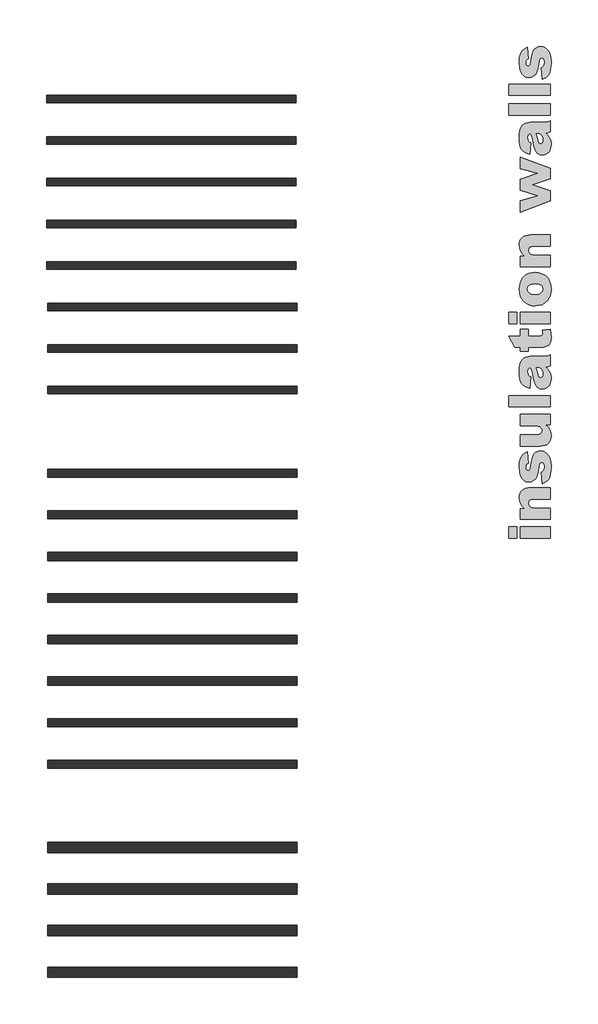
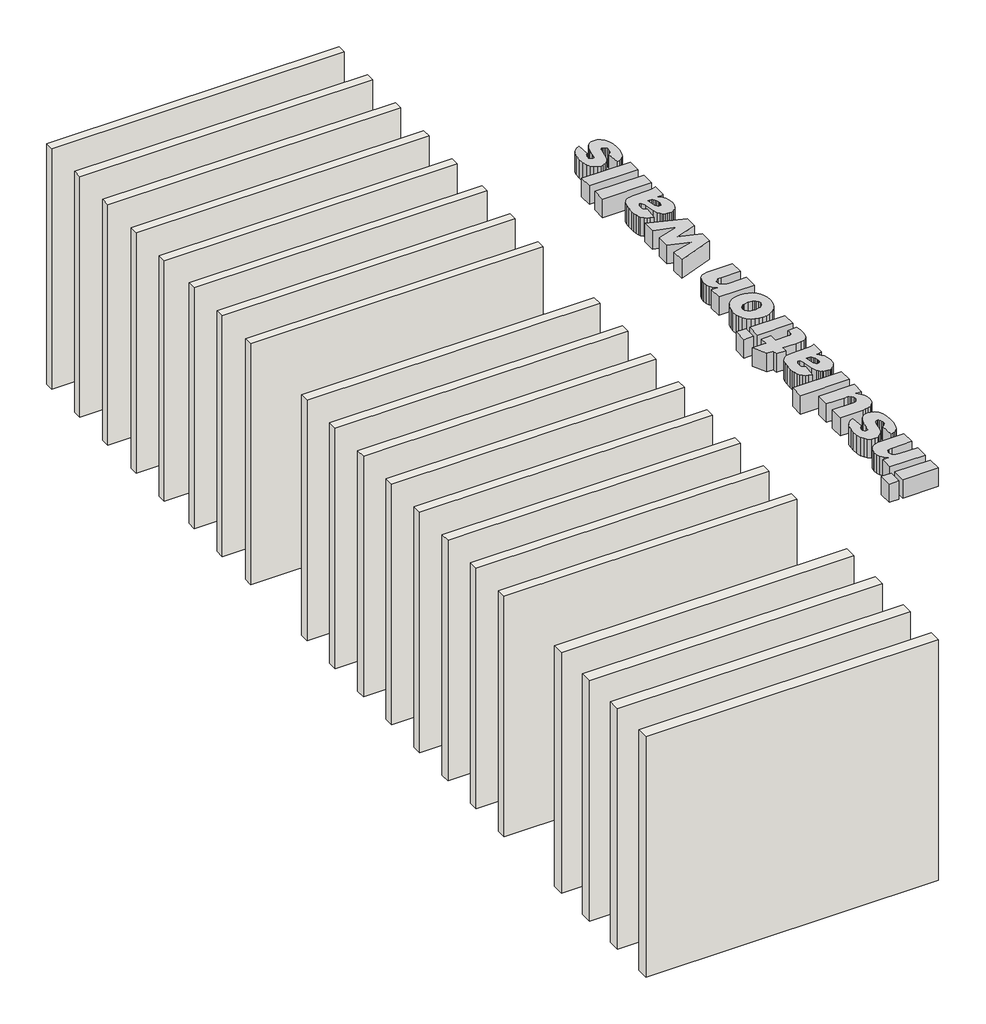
# One storey: 20 walls, 1 proxy.
"""IFC4 building model written with IfcOpenShell, lengths in millimetres."""

from ifc_helpers import new_model, si_unit, origin, origin_with_axes, place, context, project, spatial, polyline, outline, extrude, element, save

model = new_model("IFC4")

# Units and contexts
model_context = context("Model", 3, world=origin())
ifc_project = project(units=[si_unit("LENGTHUNIT", "METRE", prefix="MILLI")], contexts=[model_context])

# Site, building, storey
site = spatial("IfcSite", under=ifc_project)
building = spatial("IfcBuilding", under=site)
storey = spatial("IfcBuildingStorey", under=building, Name="faay_bottom_view_color", Elevation=0.0)

# Proxy
placement = place(None, origin())
element("IfcBuildingElementProxy", 1, Name="500 Arial Black", ObjectType="500 Arial Black", at=placement, inside=storey, context=model_context, shape_type="SweptSolid", body=[
    extrude(outline(polyline([(23393.2683136, 13413.0302828), (23393.2683136, 13550.2851847), (23491.3075293, 13550.2851847), (23491.3075293, 13413.0302828), (23393.2683136, 13413.0302828)])), origin_with_axes(), (0.0, 0.0, 1.0), 200.0),
    extrude(outline(polyline([(23530.5232155, 13413.0302828), (23530.5232155, 13550.2851847), (23893.2683136, 13550.2851847), (23893.2683136, 13413.0302828), (23530.5232155, 13413.0302828)])), origin_with_axes(), (0.0, 0.0, 1.0), 200.0),
    extrude(outline(polyline([(23530.5232155, 13638.5204788), (23530.5232155, 13766.2778318), (23587.9680685, 13766.2778318), (23556.9669962, 13795.5555585), (23536.2677008, 13825.1779543), (23524.6063957, 13858.2087448), (23520.719294, 13897.7116553), (23522.873476, 13925.0218958), (23529.3360219, 13949.2013918), (23540.1069318, 13970.2501434), (23555.1862057, 13988.1681504), (23574.7653265, 14002.4767059), (23599.0357768, 14012.6971026), (23627.9975568, 14018.8293407), (23661.6506665, 14020.87342), (23893.2683136, 14020.87342), (23893.2683136, 13883.6185181), (23691.6751763, 13883.6185181), (23662.2442633, 13880.3633097), (23642.8853479, 13870.5976847), (23632.1431604, 13854.9726847), (23628.5624312, 13834.1393514), (23633.3877989, 13810.5678134), (23647.8639018, 13791.9365328), (23659.4390397, 13784.8660288), (23674.8629827, 13779.8156688), (23717.2572842, 13775.7753808), (23893.2683136, 13775.7753808), (23893.2683136, 13638.5204788), (23530.5232155, 13638.5204788)])), origin_with_axes(), (0.0, 0.0, 1.0), 200.0),
    extrude(outline(polyline([(23795.2290979, 14069.8930279), (23785.4251763, 14207.1479298), (23803.5394533, 14217.2199274), (23815.6028724, 14230.5854298), (23822.3813651, 14248.1252583), (23824.6408626, 14270.7202337), (23821.6920268, 14294.9619617), (23812.8455195, 14313.1528318), (23803.0415979, 14321.8844494), (23791.0930685, 14324.7949886), (23778.0339386, 14322.1525254), (23768.2683136, 14314.2251357), (23761.9493798, 14296.4172313), (23754.3283626, 14258.005773), (23742.3032401, 14196.2334078), (23731.0440489, 14156.7496455), (23716.4147597, 14130.6313857), (23694.279343, 14108.9555279), (23666.5909239, 14094.3645352), (23635.3026273, 14089.500871), (23601.5250538, 14094.7857975), (23572.8026273, 14110.6405769), (23549.9204276, 14135.7439776), (23533.6635342, 14168.7747681), (23523.955354, 14212.1073355), (23520.719294, 14268.1160671), (23523.2277192, 14325.2353992), (23530.752995, 14365.159572), (23543.5440489, 14393.9011467), (23561.8498087, 14417.4726847), (23586.6085403, 14436.6592656), (23618.7585097, 14452.245969), (23628.5624312, 14314.9910671), (23616.3458258, 14309.0550989), (23607.8822842, 14300.1319984), (23601.3335709, 14284.5069984), (23599.1506665, 14265.818273), (23601.1995329, 14248.2018514), (23607.3461322, 14236.1001357), (23616.4415673, 14229.0918636), (23627.336941, 14226.755773), (23638.7876151, 14228.6706014), (23647.0979704, 14234.4150867), (23653.4934974, 14251.6868391), (23659.1996861, 14288.183469), (23668.4291592, 14348.9601234), (23680.7989508, 14391.8905769), (23697.7260342, 14421.9150867), (23720.6273822, 14443.9739102), (23747.7796494, 14457.5308955), (23777.4594901, 14462.0498906), (23808.4031175, 14457.224523), (23838.4276273, 14442.74842), (23864.9862977, 14417.893947), (23885.5324067, 14381.933469), (23898.687278, 14332.9138612), (23903.0722352, 14268.8819984), (23901.3201671, 14221.9687019), (23896.0639631, 14182.3317533), (23887.303623, 14149.9711529), (23875.0391469, 14124.8869004), (23859.5386108, 14105.3652246), (23841.0700905, 14089.6923538), (23819.6335863, 14077.8682883), (23795.2290979, 14069.8930279)])), origin_with_axes(), (0.0, 0.0, 1.0), 200.0),
    extrude(outline(polyline([(23893.2683136, 14903.2263612), (23893.2683136, 14775.0094494), (23835.9766469, 14775.0094494), (23867.0543124, 14745.7891676), (23887.6770146, 14716.3391063), (23899.22343, 14683.4040573), (23903.0722352, 14643.7288122), (23900.9180532, 14616.4903777), (23894.4555072, 14592.3731136), (23883.6845973, 14571.3770199), (23868.6053234, 14553.5020965), (23849.045351, 14539.2270505), (23824.8323454, 14529.0305891), (23795.9663068, 14522.9127123), (23762.4472352, 14520.87342), (23530.5232155, 14520.87342), (23530.5232155, 14658.128322), (23731.8099803, 14658.128322), (23761.2791898, 14661.3835303), (23780.752995, 14671.1491553), (23791.6100722, 14686.7741553), (23795.2290979, 14707.6074886), (23790.4037303, 14730.9875438), (23775.9276273, 14749.657121), (23764.3620636, 14756.794644), (23748.966843, 14761.8928747), (23706.6874312, 14765.9714592), (23530.5232155, 14765.9714592), (23530.5232155, 14903.2263612), (23893.2683136, 14903.2263612)])), origin_with_axes(), (0.0, 0.0, 1.0), 200.0),
    extrude(outline(polyline([(23393.2683136, 14991.4616553), (23393.2683136, 15128.7165573), (23893.2683136, 15128.7165573), (23893.2683136, 14991.4616553), (23393.2683136, 14991.4616553)])), origin_with_axes(), (0.0, 0.0, 1.0), 200.0),
    extrude(outline(polyline([(23657.9741959, 15354.2067533), (23648.1702744, 15216.9518514), (23612.6119104, 15225.951545), (23585.5936812, 15238.2447435), (23564.3199374, 15255.24842), (23545.9950293, 15278.3795475), (23535.3677315, 15300.6107056), (23527.3828969, 15329.9267288), (23522.3851947, 15364.1447129), (23520.719294, 15401.0817533), (23522.4809361, 15456.4585916), (23527.7658626, 15499.7337141), (23538.6037915, 15533.8559568), (23557.024441, 15561.7741553), (23575.7131665, 15577.380007), (23600.8357155, 15589.2710916), (23628.5241347, 15596.7963673), (23654.9104704, 15599.3047926), (23815.7560587, 15599.3047926), (23856.0440489, 15602.5217043), (23893.2683136, 15616.7680279), (23893.2683136, 15485.1810181), (23865.9245636, 15474.8409445), (23836.4362057, 15470.0155769), (23864.9671494, 15443.7441308), (23884.0771371, 15417.625871), (23898.3234606, 15379.0612264), (23903.0722352, 15334.7520965), (23901.2339999, 15305.3116094), (23895.719294, 15279.6433342), (23886.5281175, 15257.7472711), (23873.6604704, 15239.62342), (23858.0929153, 15225.4153931), (23840.8020146, 15215.2668024), (23821.7877682, 15209.177648), (23801.0501763, 15207.1479298), (23781.7295575, 15208.6127736), (23764.2088773, 15213.0073048), (23748.4881359, 15220.3315236), (23734.5673332, 15230.5854298), (23722.3794502, 15244.7072895), (23711.857468, 15263.7885548), (23695.8112057, 15316.8293024), (23674.1353479, 15414.6387386), (23657.9741959, 15462.0498906), (23639.4769533, 15459.6755033), (23627.4901273, 15452.5523416), (23620.9414141, 15439.4932117), (23618.7585097, 15419.31092), (23621.2477866, 15392.5416185), (23628.7156175, 15373.5082239), (23639.9365121, 15362.7085916), (23657.9741959, 15354.2067533)]), holes=[polyline([(23726.6016469, 15462.0498906), (23740.3884116, 15405.8305279), (23748.8902499, 15373.2784445), (23757.2389018, 15355.2790573), (23766.3917817, 15347.1218882), (23776.6935587, 15344.4028318), (23788.0867879, 15347.1027399), (23797.1439263, 15355.2024641), (23803.0607462, 15368.5105217), (23805.0330195, 15386.8354298), (23802.8884116, 15407.9559874), (23796.4545881, 15427.5063857), (23786.9378908, 15443.552648), (23775.5446616, 15454.1607975), (23761.3557829, 15460.0776173), (23743.4521371, 15462.0498906), (23726.6016469, 15462.0498906)])]), origin_with_axes(), (0.0, 0.0, 1.0), 200.0),
    extrude(outline(polyline([(23393.2683136, 15844.4028318), (23530.5232155, 15844.4028318), (23530.5232155, 15922.8342043), (23628.5624312, 15922.8342043), (23628.5624312, 15844.4028318), (23761.3749312, 15844.4028318), (23781.2508504, 15845.4751357), (23793.0844901, 15848.6920475), (23802.0458871, 15857.7300377), (23805.0330195, 15871.6699886), (23802.7352254, 15889.3630033), (23795.841843, 15913.0302828), (23891.8896371, 15922.8342043), (23900.2765856, 15874.120969), (23903.0722352, 15828.7778318), (23899.6829888, 15784.8516676), (23889.5152499, 15754.1761161), (23872.4349803, 15733.2661896), (23848.308142, 15718.6369004), (23812.0604398, 15710.0201725), (23758.6175783, 15707.1479298), (23628.5624312, 15707.1479298), (23628.5624312, 15658.128322), (23530.5232155, 15658.128322), (23530.5232155, 15707.1479298), (23464.346745, 15707.1479298), (23393.2683136, 15844.4028318)])), origin_with_axes(), (0.0, 0.0, 1.0), 200.0),
    extrude(outline(polyline([(23393.2683136, 15991.4616553), (23393.2683136, 16128.7165573), (23491.3075293, 16128.7165573), (23491.3075293, 15991.4616553), (23393.2683136, 15991.4616553)])), origin_with_axes(), (0.0, 0.0, 1.0), 200.0),
    extrude(outline(polyline([(23530.5232155, 15991.4616553), (23530.5232155, 16128.7165573), (23893.2683136, 16128.7165573), (23893.2683136, 15991.4616553), (23530.5232155, 15991.4616553)])), origin_with_axes(), (0.0, 0.0, 1.0), 200.0),
    extrude(outline(polyline([(23712.9680685, 16207.1479298), (23672.9194318, 16210.5228149), (23636.5664141, 16220.6474703), (23603.9090152, 16237.5218958), (23574.9472352, 16261.1460916), (23551.2225109, 16290.5243468), (23534.2762793, 16324.6609507), (23524.1085403, 16363.5559032), (23520.719294, 16407.2092043), (23524.7021371, 16456.5351847), (23536.6506665, 16499.4273416), (23556.5648822, 16535.8856749), (23584.4447842, 16565.9101847), (23611.5874772, 16584.8095413), (23641.6981543, 16598.3090818), (23674.7768154, 16606.408806), (23710.8234606, 16609.1087141), (23751.121025, 16605.7625515), (23787.6080807, 16595.7240634), (23820.2846279, 16578.99325), (23849.1506665, 16555.5701112), (23872.7413528, 16526.2397267), (23889.591843, 16491.7871761), (23899.7021371, 16452.2124595), (23903.0722352, 16407.5155769), (23900.2765856, 16367.3329022), (23891.8896371, 16331.1905156), (23877.9113896, 16299.088417), (23858.341843, 16271.0266063), (23828.4609453, 16243.0796853), (23794.2716837, 16223.1175989), (23755.7740581, 16211.1403471), (23712.9680685, 16207.1479298)]), holes=[polyline([(23711.7425783, 16344.4028318), (23753.1794655, 16348.9409752), (23769.2448761, 16354.6136544), (23782.2082646, 16362.5554053), (23799.3268307, 16383.0632178), (23805.0330195, 16408.2815083), (23799.4034239, 16433.652985), (23782.5146371, 16454.0076112), (23769.5608228, 16461.8153241), (23753.2177621, 16467.3922619), (23710.3639018, 16471.8538122), (23669.9993185, 16467.3539654), (23654.2402805, 16461.7291568), (23641.4300783, 16453.8544249), (23624.4264018, 16433.6912815), (23618.7585097, 16409.2006259), (23624.502995, 16383.4844801), (23641.7364508, 16362.7085916), (23654.7285617, 16354.6998217), (23670.7269533, 16348.9792717), (23711.7425783, 16344.4028318)])]), origin_with_axes(), (0.0, 0.0, 1.0), 200.0),
    extrude(outline(polyline([(23530.5232155, 16677.7361651), (23530.5232155, 16805.4935181), (23587.9680685, 16805.4935181), (23556.9669962, 16834.7712448), (23536.2677008, 16864.3936406), (23524.6063957, 16897.424431), (23520.719294, 16936.9273416), (23522.873476, 16964.2375821), (23529.3360219, 16988.4170781), (23540.1069318, 17009.4658296), (23555.1862057, 17027.3838367), (23574.7653265, 17041.6923921), (23599.0357768, 17051.9127889), (23627.9975568, 17058.0450269), (23661.6506665, 17060.0891063), (23893.2683136, 17060.0891063), (23893.2683136, 16922.8342043), (23691.6751763, 16922.8342043), (23662.2442633, 16919.578996), (23642.8853479, 16909.813371), (23632.1431604, 16894.188371), (23628.5624312, 16873.3550377), (23633.3877989, 16849.7834997), (23647.8639018, 16831.152219), (23659.4390397, 16824.0817151), (23674.8629827, 16819.0313551), (23717.2572842, 16814.9910671), (23893.2683136, 16814.9910671), (23893.2683136, 16677.7361651), (23530.5232155, 16677.7361651)])), origin_with_axes(), (0.0, 0.0, 1.0), 200.0),
    extrude(outline(polyline([(23530.5232155, 17334.5989102), (23530.5232155, 17469.8623906), (23743.4521371, 17528.0731749), (23530.5232155, 17597.1601847), (23530.5232155, 17727.8280769), (23744.2180685, 17799.2128808), (23530.5232155, 17856.3513612), (23530.5232155, 17991.4616553), (23893.2683136, 17858.8023416), (23893.2683136, 17735.9469494), (23674.9778724, 17663.0302828), (23893.2683136, 17592.2582239), (23893.2683136, 17468.4837141), (23530.5232155, 17334.5989102)])), origin_with_axes(), (0.0, 0.0, 1.0), 200.0),
    extrude(outline(polyline([(23657.9741959, 18167.9322435), (23648.1702744, 18030.6773416), (23612.6119104, 18039.6770352), (23585.5936812, 18051.9702337), (23564.3199374, 18068.9739102), (23545.9950293, 18092.1050377), (23535.3677315, 18114.3361958), (23527.3828969, 18143.652219), (23522.3851947, 18177.8702031), (23520.719294, 18214.8072435), (23522.4809361, 18270.1840818), (23527.7658626, 18313.4592043), (23538.6037915, 18347.581447), (23557.024441, 18375.4996455), (23575.7131665, 18391.1054972), (23600.8357155, 18402.9965818), (23628.5241347, 18410.5218575), (23654.9104704, 18413.0302828), (23815.7560587, 18413.0302828), (23856.0440489, 18416.2471945), (23893.2683136, 18430.4935181), (23893.2683136, 18298.9065083), (23865.9245636, 18288.5664347), (23836.4362057, 18283.7410671), (23864.9671494, 18257.469621), (23884.0771371, 18231.3513612), (23898.3234606, 18192.7867166), (23903.0722352, 18148.4775867), (23901.2339999, 18119.0370996), (23895.719294, 18093.3688244), (23886.5281175, 18071.4727613), (23873.6604704, 18053.3489102), (23858.0929153, 18039.1408833), (23840.8020146, 18028.9922926), (23821.7877682, 18022.9031382), (23801.0501763, 18020.87342), (23781.7295575, 18022.3382638), (23764.2088773, 18026.732795), (23748.4881359, 18034.0570138), (23734.5673332, 18044.31092), (23722.3794502, 18058.4327797), (23711.857468, 18077.514045), (23695.8112057, 18130.5547926), (23674.1353479, 18228.3642288), (23657.9741959, 18275.7753808), (23639.4769533, 18273.4009935), (23627.4901273, 18266.2778318), (23620.9414141, 18253.2187019), (23618.7585097, 18233.0364102), (23621.2477866, 18206.2671087), (23628.7156175, 18187.2337141), (23639.9365121, 18176.4340818), (23657.9741959, 18167.9322435)]), holes=[polyline([(23726.6016469, 18275.7753808), (23740.3884116, 18219.5560181), (23748.8902499, 18187.0039347), (23757.2389018, 18169.0045475), (23766.3917817, 18160.8473783), (23776.6935587, 18158.128322), (23788.0867879, 18160.8282301), (23797.1439263, 18168.9279543), (23803.0607462, 18182.2360119), (23805.0330195, 18200.56092), (23802.8884116, 18221.6814776), (23796.4545881, 18241.2318759), (23786.9378908, 18257.2781382), (23775.5446616, 18267.8862877), (23761.3557829, 18273.8031075), (23743.4521371, 18275.7753808), (23726.6016469, 18275.7753808)])]), origin_with_axes(), (0.0, 0.0, 1.0), 200.0),
    extrude(outline(polyline([(23393.2683136, 18501.2655769), (23393.2683136, 18638.5204788), (23893.2683136, 18638.5204788), (23893.2683136, 18501.2655769), (23393.2683136, 18501.2655769)])), origin_with_axes(), (0.0, 0.0, 1.0), 200.0),
    extrude(outline(polyline([(23393.2683136, 18736.5596945), (23393.2683136, 18873.8145965), (23893.2683136, 18873.8145965), (23893.2683136, 18736.5596945), (23393.2683136, 18736.5596945)])), origin_with_axes(), (0.0, 0.0, 1.0), 200.0),
    extrude(outline(polyline([(23795.2290979, 18932.6381259), (23785.4251763, 19069.8930279), (23803.5394533, 19079.9650254), (23815.6028724, 19093.3305279), (23822.3813651, 19110.8703563), (23824.6408626, 19133.4653318), (23821.6920268, 19157.7070597), (23812.8455195, 19175.8979298), (23803.0415979, 19184.6295475), (23791.0930685, 19187.5400867), (23778.0339386, 19184.8976234), (23768.2683136, 19176.9702337), (23761.9493798, 19159.1623293), (23754.3283626, 19120.750871), (23742.3032401, 19058.9785058), (23731.0440489, 19019.4947435), (23716.4147597, 18993.3764837), (23694.279343, 18971.7006259), (23666.5909239, 18957.1096333), (23635.3026273, 18952.245969), (23601.5250538, 18957.5308955), (23572.8026273, 18973.3856749), (23549.9204276, 18998.4890757), (23533.6635342, 19031.5198661), (23523.955354, 19074.8524335), (23520.719294, 19130.8611651), (23523.2277192, 19187.9804972), (23530.752995, 19227.90467), (23543.5440489, 19256.6462448), (23561.8498087, 19280.2177828), (23586.6085403, 19299.4043636), (23618.7585097, 19314.9910671), (23628.5624312, 19177.7361651), (23616.3458258, 19171.800197), (23607.8822842, 19162.8770965), (23601.3335709, 19147.2520965), (23599.1506665, 19128.563371), (23601.1995329, 19110.9469494), (23607.3461322, 19098.8452337), (23616.4415673, 19091.8369617), (23627.336941, 19089.500871), (23638.7876151, 19091.4156994), (23647.0979704, 19097.1601847), (23653.4934974, 19114.4319372), (23659.1996861, 19150.9285671), (23668.4291592, 19211.7052215), (23680.7989508, 19254.6356749), (23697.7260342, 19284.6601847), (23720.6273822, 19306.7190083), (23747.7796494, 19320.2759935), (23777.4594901, 19324.7949886), (23808.4031175, 19319.969621), (23838.4276273, 19305.4935181), (23864.9862977, 19280.639045), (23885.5324067, 19244.6785671), (23898.687278, 19195.6589592), (23903.0722352, 19131.6270965), (23901.3201671, 19084.7137999), (23896.0639631, 19045.0768514), (23887.303623, 19012.7162509), (23875.0391469, 18987.6319984), (23859.5386108, 18968.1103226), (23841.0700905, 18952.4374519), (23819.6335863, 18940.6133863), (23795.2290979, 18932.6381259)])), origin_with_axes(), (0.0, 0.0, 1.0), 200.0),
])

# Walls
element("IfcWall", 2, ObjectType="Faay_22_IW90_", at=placement, inside=storey, context=model_context, shape_type="SweptSolid", body=[
    extrude(outline(polyline([(20830.9340793, 18648.8247672), (17830.9340793, 18648.8247672), (17830.9340793, 18738.8247672), (20830.9340793, 18738.8247672), (20830.9340793, 18648.8247672)])), origin_with_axes(), (0.0, 0.0, 1.0), 2605.0),
])
element("IfcWall", 3, ObjectType="Faay_22_IW100_", at=placement, inside=storey, context=model_context, shape_type="SweptSolid", body=[
    extrude(outline(polyline([(20848.3838276, 14144.1293537), (17848.3838276, 14144.1293537), (17848.3838276, 14244.1293537), (20848.3838276, 14244.1293537), (20848.3838276, 14144.1293537)])), origin_with_axes(), (0.0, 0.0, 1.0), 2605.0),
])
element("IfcWall", 4, ObjectType="Faay_22_IW125_", at=placement, inside=storey, context=model_context, shape_type="SweptSolid", body=[
    extrude(outline(polyline([(20848.3838276, 9631.6293537), (17848.3838276, 9631.6293537), (17848.3838276, 9756.6293537), (20848.3838276, 9756.6293537), (20848.3838276, 9631.6293537)])), origin_with_axes(), (0.0, 0.0, 1.0), 2605.0),
])
element("IfcWall", 5, ObjectType="Faay_22_IW90_WR1x_B", at=placement, inside=storey, context=model_context, shape_type="SweptSolid", body=[
    extrude(outline(polyline([(20848.3838276, 15649.1293537), (17848.3838276, 15649.1293537), (17848.3838276, 15739.1293537), (20848.3838276, 15739.1293537), (20848.3838276, 15649.1293537)])), origin_with_axes(), (0.0, 0.0, 1.0), 2605.0),
])
element("IfcWall", 6, ObjectType="Faay_22_IW100_WR1x_F", at=placement, inside=storey, context=model_context, shape_type="SweptSolid", body=[
    extrude(outline(polyline([(20848.3838276, 11644.1293537), (17848.3838276, 11644.1293537), (17848.3838276, 11744.1293537), (20848.3838276, 11744.1293537), (20848.3838276, 11644.1293537)])), origin_with_axes(), (0.0, 0.0, 1.0), 2605.0),
])
element("IfcWall", 7, ObjectType="Faay_22_IW90_WR2x", at=placement, inside=storey, context=model_context, shape_type="SweptSolid", body=[
    extrude(outline(polyline([(20848.3838276, 15149.1293537), (17848.3838276, 15149.1293537), (17848.3838276, 15239.1293537), (20848.3838276, 15239.1293537), (20848.3838276, 15149.1293537)])), origin_with_axes(), (0.0, 0.0, 1.0), 2605.0),
])
element("IfcWall", 8, ObjectType="Faay_22_IW100_WR2x", at=placement, inside=storey, context=model_context, shape_type="SweptSolid", body=[
    extrude(outline(polyline([(20848.3838276, 10644.1293537), (17848.3838276, 10644.1293537), (17848.3838276, 10744.1293537), (20848.3838276, 10744.1293537), (20848.3838276, 10644.1293537)])), origin_with_axes(), (0.0, 0.0, 1.0), 2605.0),
])
element("IfcWall", 9, ObjectType="Faay_22_IW125_WR1x_B", at=placement, inside=storey, context=model_context, shape_type="SweptSolid", body=[
    extrude(outline(polyline([(20848.3838276, 8631.6293537), (17848.3838276, 8631.6293537), (17848.3838276, 8756.6293537), (20848.3838276, 8756.6293537), (20848.3838276, 8631.6293537)])), origin_with_axes(), (0.0, 0.0, 1.0), 2605.0),
])
element("IfcWall", 10, ObjectType="Faay_22_IW125_WR2x", at=placement, inside=storey, context=model_context, shape_type="SweptSolid", body=[
    extrude(outline(polyline([(20848.3838276, 8131.6293537), (17848.3838276, 8131.6293537), (17848.3838276, 8256.6293537), (20848.3838276, 8256.6293537), (20848.3838276, 8131.6293537)])), origin_with_axes(), (0.0, 0.0, 1.0), 2605.0),
])
element("IfcWall", 11, ObjectType="Faay_22_IW90_V1x", at=placement, inside=storey, context=model_context, shape_type="SweptSolid", body=[
    extrude(outline(polyline([(20830.9340793, 18149.5099999), (17830.9340793, 18149.5099999), (17830.9340793, 18239.5099999), (20830.9340793, 18239.5099999), (20830.9340793, 18149.5099999)])), origin_with_axes(), (0.0, 0.0, 1.0), 2605.0),
])
element("IfcWall", 12, ObjectType="Faay_22_IW90_V2x", at=placement, inside=storey, context=model_context, shape_type="SweptSolid", body=[
    extrude(outline(polyline([(20830.9340793, 17649.5099999), (17830.9340793, 17649.5099999), (17830.9340793, 17739.5099999), (20830.9340793, 17739.5099999), (20830.9340793, 17649.5099999)])), origin_with_axes(), (0.0, 0.0, 1.0), 2605.0),
])
element("IfcWall", 13, ObjectType="Faay_22_IW90_V1x_WR1x_B", at=placement, inside=storey, context=model_context, shape_type="SweptSolid", body=[
    extrude(outline(polyline([(20830.9340793, 16648.8247672), (17830.9340793, 16648.8247672), (17830.9340793, 16738.8247672), (20830.9340793, 16738.8247672), (20830.9340793, 16648.8247672)])), origin_with_axes(), (0.0, 0.0, 1.0), 2605.0),
])
element("IfcWall", 14, ObjectType="Faay_22_IW100_V2x", at=placement, inside=storey, context=model_context, shape_type="SweptSolid", body=[
    extrude(outline(polyline([(20848.3838276, 13144.1293537), (17848.3838276, 13144.1293537), (17848.3838276, 13244.1293537), (20848.3838276, 13244.1293537), (20848.3838276, 13144.1293537)])), origin_with_axes(), (0.0, 0.0, 1.0), 2605.0),
])
element("IfcWall", 15, ObjectType="Faay_22_IW100_V1x", at=placement, inside=storey, context=model_context, shape_type="SweptSolid", body=[
    extrude(outline(polyline([(20848.3838276, 13644.1293537), (17848.3838276, 13644.1293537), (17848.3838276, 13744.1293537), (20848.3838276, 13744.1293537), (20848.3838276, 13644.1293537)])), origin_with_axes(), (0.0, 0.0, 1.0), 2605.0),
])
element("IfcWall", 16, ObjectType="Faay_22_IW100_V1x_WR1x_B", at=placement, inside=storey, context=model_context, shape_type="SweptSolid", body=[
    extrude(outline(polyline([(20848.3838276, 12144.1293537), (17848.3838276, 12144.1293537), (17848.3838276, 12244.1293537), (20848.3838276, 12244.1293537), (20848.3838276, 12144.1293537)])), origin_with_axes(), (0.0, 0.0, 1.0), 2605.0),
])
element("IfcWall", 17, ObjectType="Faay_22_IW90_V1x_WR1x_F", at=placement, inside=storey, context=model_context, shape_type="SweptSolid", body=[
    extrude(outline(polyline([(20830.9340793, 17148.8247672), (17830.9340793, 17148.8247672), (17830.9340793, 17238.8247672), (20830.9340793, 17238.8247672), (20830.9340793, 17148.8247672)])), origin_with_axes(), (0.0, 0.0, 1.0), 2605.0),
])
element("IfcWall", 18, ObjectType="Faay_22_IW90_WR1x_F", at=placement, inside=storey, context=model_context, shape_type="SweptSolid", body=[
    extrude(outline(polyline([(20848.3838276, 16149.1293537), (17848.3838276, 16149.1293537), (17848.3838276, 16239.1293537), (20848.3838276, 16239.1293537), (20848.3838276, 16149.1293537)])), origin_with_axes(), (0.0, 0.0, 1.0), 2605.0),
])
element("IfcWall", 19, ObjectType="Faay_22_IW100_V1x_WR1x_F", at=placement, inside=storey, context=model_context, shape_type="SweptSolid", body=[
    extrude(outline(polyline([(20848.3838276, 12644.1293537), (17848.3838276, 12644.1293537), (17848.3838276, 12744.1293537), (20848.3838276, 12744.1293537), (20848.3838276, 12644.1293537)])), origin_with_axes(), (0.0, 0.0, 1.0), 2605.0),
])
element("IfcWall", 20, ObjectType="Faay_22_IW100_WR1x_B", at=placement, inside=storey, context=model_context, shape_type="SweptSolid", body=[
    extrude(outline(polyline([(20848.3838276, 11144.1293537), (17848.3838276, 11144.1293537), (17848.3838276, 11244.1293537), (20848.3838276, 11244.1293537), (20848.3838276, 11144.1293537)])), origin_with_axes(), (0.0, 0.0, 1.0), 2605.0),
])
element("IfcWall", 21, ObjectType="Faay_22_IW125_WR1x_F", at=placement, inside=storey, context=model_context, shape_type="SweptSolid", body=[
    extrude(outline(polyline([(20848.3838276, 9131.6293537), (17848.3838276, 9131.6293537), (17848.3838276, 9256.6293537), (20848.3838276, 9256.6293537), (20848.3838276, 9131.6293537)])), origin_with_axes(), (0.0, 0.0, 1.0), 2605.0),
])

save(model, "model.ifc")
